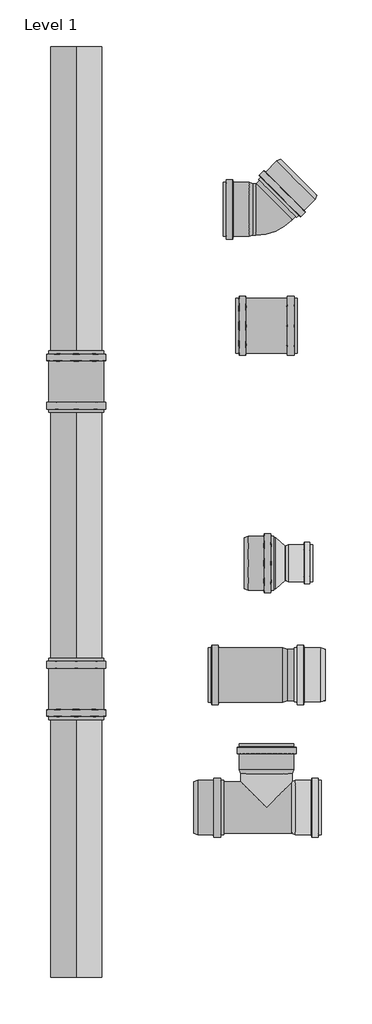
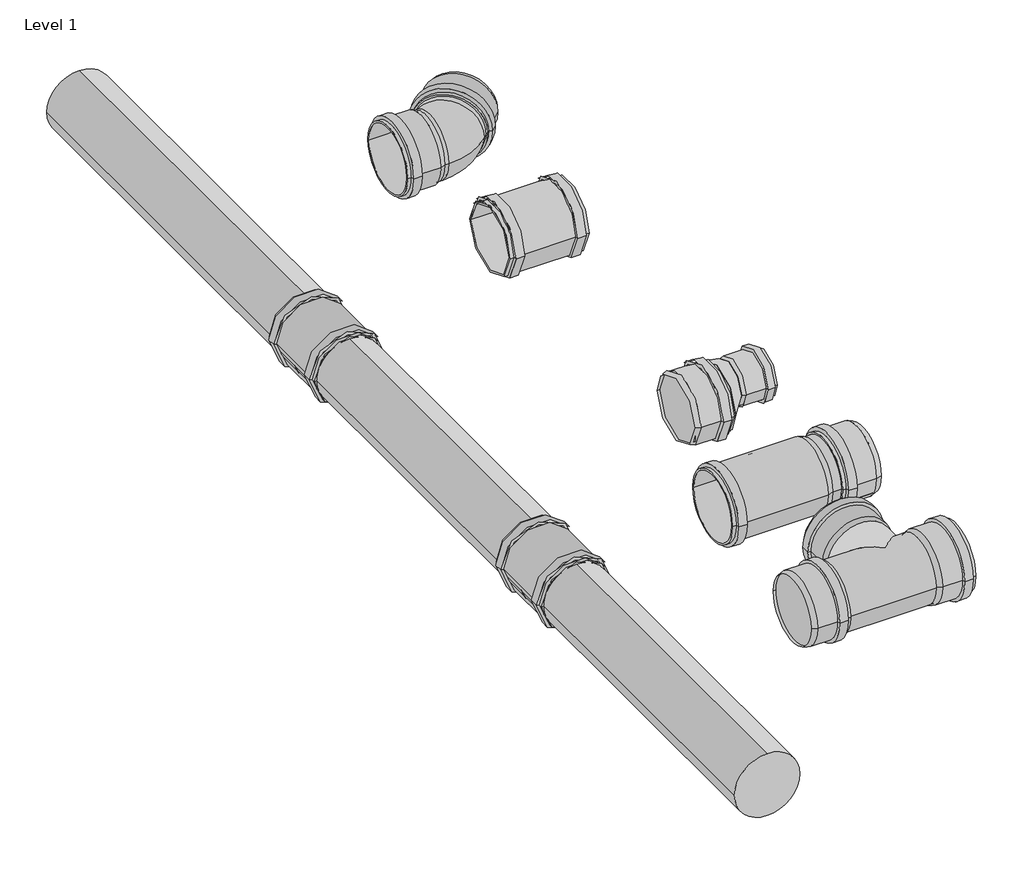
# One storey, incomplete: 7 pipe fittings, 3 pipe segments.
"""IFC4 building model written with IfcOpenShell, lengths in millimetres."""

from ifc_helpers import new_model, si_unit, point, frame, frame_2d, origin, place, context, project, spatial, circle_curve, trimmed, segment, composite_curve, outline, extrude, transform, mapped, element, save
from components import dn_var_32_160_0daad809, dn_var_40_110_8c8b9e17, pp_master_3_bocht_dn_var_32_160_5654f6d2, pp_master_3_dubbele_sok_dn_var_40_160_53966bc2, pp_master_3_t_stuk_dn_var_32_160_00d9866a

model = new_model("IFC4")

# Units and contexts
model_context = context("Model", 3, world=origin())
ifc_project = project(units=[si_unit("LENGTHUNIT", "METRE", prefix="MILLI")], contexts=[model_context])

# Site, building, storey
site = spatial("IfcSite", under=ifc_project)
building = spatial("IfcBuilding", under=site)
storey = spatial("IfcBuildingStorey", under=building, Name="Level 1", Elevation=0.0)

# Pipe fittings
placement = place(None, origin())
dn_var_32_160_shape = dn_var_32_160_0daad809(model_context)
element("IfcPipeFitting", 1, ObjectType="PP MASTER 3+ INZETVERLOOP EXCENT. : DN var. 32-160", at=placement, inside=storey, context=model_context, shape_type="MappedRepresentation", body=[
    mapped(dn_var_32_160_shape, transform((1523.5708528, 872.0505757, 0.0), x_axis=(1.0, 0.0, 0.0), y_axis=(0.0, 1.0, 0.0), z_axis=(0.0, 0.0, 1.0))),
])
dn_var_40_110_shape = dn_var_40_110_8c8b9e17(model_context)
element("IfcPipeFitting", 2, ObjectType="PP MASTER 3+ SOK LANG : DN var. 40-110", at=placement, inside=storey, context=model_context, shape_type="MappedRepresentation", body=[
    mapped(dn_var_40_110_shape, transform((1553.5708528, 632.089869, 0.0), x_axis=(1.0, 0.0, 0.0), y_axis=(0.0, 1.0, 0.0), z_axis=(0.0, 0.0, 1.0))),
])
pp_master_3_bocht_dn_var_32_160_shape = pp_master_3_bocht_dn_var_32_160_5654f6d2(model_context)
element("IfcPipeFitting", 3, ObjectType="PP MASTER 3+ BOCHT : DN var. 32-160", at=placement, inside=storey, context=model_context, shape_type="MappedRepresentation", body=[
    mapped(pp_master_3_bocht_dn_var_32_160_shape, transform((1523.5708528, 1632.089869, 0.0), x_axis=(1.0, 0.0, 0.0), y_axis=(0.0, 1.0, 0.0), z_axis=(0.0, 0.0, 1.0))),
])
pp_master_3_dubbele_sok_dn_var_40_160_shape = pp_master_3_dubbele_sok_dn_var_40_160_53966bc2(model_context)
element("IfcPipeFitting", 4, ObjectType="PP MASTER 3+ DUBBELE SOK : DN var. 40-160", at=placement, inside=storey, context=model_context, shape_type="MappedRepresentation", body=[
    mapped(pp_master_3_dubbele_sok_dn_var_40_160_shape, transform((1523.5708528, 1382.089869, 0.0), x_axis=(1.0, 0.0, 0.0), y_axis=(0.0, 1.0, 0.0), z_axis=(0.0, 0.0, 1.0))),
])
element("IfcPipeFitting", 5, ObjectType="PP MASTER 3+ DUBBELE SOK : DN var. 40-160", at=placement, inside=storey, context=model_context, shape_type="MappedRepresentation", body=[
    mapped(pp_master_3_dubbele_sok_dn_var_40_160_shape, transform((1114.4404687, 1262.089869, 0.0), x_axis=(0.0, -1.0, 0.0), y_axis=(1.0, 0.0, 0.0), z_axis=(0.0, 0.0, 1.0))),
])
element("IfcPipeFitting", 6, ObjectType="PP MASTER 3+ DUBBELE SOK : DN var. 40-160", at=placement, inside=storey, context=model_context, shape_type="MappedRepresentation", body=[
    mapped(pp_master_3_dubbele_sok_dn_var_40_160_shape, transform((1114.4404687, 602.089869, 0.0), x_axis=(0.0, -1.0, 0.0), y_axis=(1.0, 0.0, 0.0), z_axis=(0.0, 0.0, 1.0))),
])
pp_master_3_t_stuk_dn_var_32_160_shape = pp_master_3_t_stuk_dn_var_32_160_00d9866a(model_context)
element("IfcPipeFitting", 7, ObjectType="PP MASTER 3+ T-STUK : DN var. 32-160", at=placement, inside=storey, context=model_context, shape_type="MappedRepresentation", body=[
    mapped(pp_master_3_t_stuk_dn_var_32_160_shape, transform((1523.5708528, 347.089869, 0.0), x_axis=(1.0, 0.0, 0.0), y_axis=(0.0, 1.0, 0.0), z_axis=(0.0, 0.0, 1.0))),
])

# Pipe segments
element("IfcPipeSegment", 8, ObjectType="MASTER 3 PLUS PP buis glad", at=placement, inside=storey, context=model_context, shape_type="SweptSolid", body=[
    extrude(outline(composite_curve([segment(trimmed(circle_curve(frame_2d((0.0, 1114.4404687)), 55.0), [point((0.0, 1059.4404687))], [point((-55.0, 1114.4404687))], False, "CARTESIAN"), True, "CONTINUOUS"), segment(trimmed(circle_curve(frame_2d((0.0, 1114.4404687)), 55.0), [point((-55.0, 1114.4404687))], [point((0.0, 1169.4404687))], False, "CARTESIAN"), True, "CONTINUOUS"), segment(trimmed(circle_curve(frame_2d((0.0, 1114.4404687)), 55.0), [point((0.0, 1169.4404687))], [point((55.0, 1114.4404687))], False, "CARTESIAN"), True, "CONTINUOUS"), segment(trimmed(circle_curve(frame_2d((0.0, 1114.4404687)), 55.0), [point((55.0, 1114.4404687))], [point((0.0, 1059.4404687))], False, "CARTESIAN"), True, "CONTINUOUS")], self_intersect=False)), frame((0.0, -17.910131, 0.0), z_axis=(0.0, 1.0, 0.0), x_axis=(0.0, 0.0, 1.0)), (0.0, 0.0, 1.0), 619.025),
])
element("IfcPipeSegment", 9, ObjectType="MASTER 3 PLUS PP buis glad", at=placement, inside=storey, context=model_context, shape_type="SweptSolid", body=[
    extrude(outline(composite_curve([segment(trimmed(circle_curve(frame_2d((0.0, 1114.4404687)), 55.0), [point((0.0, 1059.4404687))], [point((-55.0, 1114.4404687))], False, "CARTESIAN"), True, "CONTINUOUS"), segment(trimmed(circle_curve(frame_2d((0.0, 1114.4404687)), 55.0), [point((-55.0, 1114.4404687))], [point((0.0, 1169.4404687))], False, "CARTESIAN"), True, "CONTINUOUS"), segment(trimmed(circle_curve(frame_2d((0.0, 1114.4404687)), 55.0), [point((0.0, 1169.4404687))], [point((55.0, 1114.4404687))], False, "CARTESIAN"), True, "CONTINUOUS"), segment(trimmed(circle_curve(frame_2d((0.0, 1114.4404687)), 55.0), [point((55.0, 1114.4404687))], [point((0.0, 1059.4404687))], False, "CARTESIAN"), True, "CONTINUOUS")], self_intersect=False)), frame((0.0, 1263.064869, 0.0), z_axis=(0.0, 1.0, 0.0), x_axis=(0.0, 0.0, 1.0)), (0.0, 0.0, 1.0), 719.025),
])
element("IfcPipeSegment", 10, ObjectType="MASTER 3 PLUS PP buis glad", at=placement, inside=storey, context=model_context, shape_type="SweptSolid", body=[
    extrude(outline(composite_curve([segment(trimmed(circle_curve(frame_2d((0.0, 1114.4404687)), 55.0), [point((0.0, 1059.4404687))], [point((-55.0, 1114.4404687))], False, "CARTESIAN"), True, "CONTINUOUS"), segment(trimmed(circle_curve(frame_2d((0.0, 1114.4404687)), 55.0), [point((-55.0, 1114.4404687))], [point((0.0, 1169.4404687))], False, "CARTESIAN"), True, "CONTINUOUS"), segment(trimmed(circle_curve(frame_2d((0.0, 1114.4404687)), 55.0), [point((0.0, 1169.4404687))], [point((55.0, 1114.4404687))], False, "CARTESIAN"), True, "CONTINUOUS"), segment(trimmed(circle_curve(frame_2d((0.0, 1114.4404687)), 55.0), [point((55.0, 1114.4404687))], [point((0.0, 1059.4404687))], False, "CARTESIAN"), True, "CONTINUOUS")], self_intersect=False)), frame((0.0, 603.064869, 0.0), z_axis=(0.0, 1.0, 0.0), x_axis=(0.0, 0.0, 1.0)), (0.0, 0.0, 1.0), 658.05),
])

save(model, "model.ifc")
